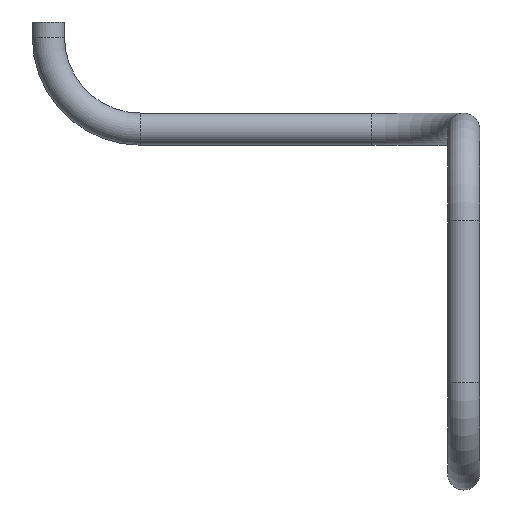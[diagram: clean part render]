
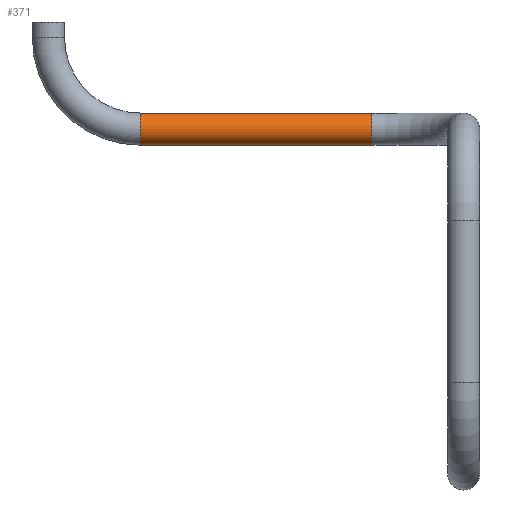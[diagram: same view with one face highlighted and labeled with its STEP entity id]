
A CAD part, left-side view. The second image highlights one B-rep face of the part: STEP entity #371.
In plain terms, the highlighted cylindrical face has radius 0.525 mm (diameter 1.05 mm), a full revolution.
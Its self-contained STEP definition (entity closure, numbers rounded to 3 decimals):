
#305 = TOROIDAL_SURFACE('',#306,3.,0.525);
#306 = AXIS2_PLACEMENT_3D('',#307,#308,#309);
#307 = CARTESIAN_POINT('',(-6.81,-19.99,-9.5));
#308 = DIRECTION('',(-0.,0.,1.));
#309 = DIRECTION('',(0.,-1.,0.));
#322 = VERTEX_POINT('',#323);
#323 = CARTESIAN_POINT('',(-3.81,-19.99,-8.975));
#344 = EDGE_CURVE('',#322,#322,#345,.T.);
#345 = SURFACE_CURVE('',#346,(#351,#358),.PCURVE_S1.);
#346 = CIRCLE('',#347,0.525);
#347 = AXIS2_PLACEMENT_3D('',#348,#349,#350);
#348 = CARTESIAN_POINT('',(-3.81,-19.99,-9.5));
#349 = DIRECTION('',(0.,-1.,0.));
#350 = DIRECTION('',(1.,0.,0.));
#351 = PCURVE('',#305,#352);
#352 = DEFINITIONAL_REPRESENTATION('',(#353),#357);
#353 = LINE('',#354,#355);
#354 = CARTESIAN_POINT('',(1.571,0.));
#355 = VECTOR('',#356,1.);
#356 = DIRECTION('',(0.,1.));
#357 = ( GEOMETRIC_REPRESENTATION_CONTEXT(2) 
PARAMETRIC_REPRESENTATION_CONTEXT() REPRESENTATION_CONTEXT('2D SPACE',''
  ) );
#358 = PCURVE('',#359,#364);
#359 = CYLINDRICAL_SURFACE('',#360,0.525);
#360 = AXIS2_PLACEMENT_3D('',#361,#362,#363);
#361 = CARTESIAN_POINT('',(-3.81,-19.99,-9.5));
#362 = DIRECTION('',(0.,1.,0.));
#363 = DIRECTION('',(0.,-0.,1.));
#364 = DEFINITIONAL_REPRESENTATION('',(#365),#368);
#365 = B_SPLINE_CURVE_WITH_KNOTS('',1,(#366,#367),.UNSPECIFIED.,.F.,.F.,
  (2,2),(1.571,7.854),.PIECEWISE_BEZIER_KNOTS.);
#366 = CARTESIAN_POINT('',(6.283,0.));
#367 = CARTESIAN_POINT('',(0.,0.));
#368 = ( GEOMETRIC_REPRESENTATION_CONTEXT(2) 
PARAMETRIC_REPRESENTATION_CONTEXT() REPRESENTATION_CONTEXT('2D SPACE',''
  ) );
#371 = ADVANCED_FACE('',(#372),#359,.T.);
#372 = FACE_BOUND('',#373,.T.);
#373 = EDGE_LOOP('',(#374,#396,#422,#423));
#374 = ORIENTED_EDGE('',*,*,#375,.T.);
#375 = EDGE_CURVE('',#322,#376,#378,.T.);
#376 = VERTEX_POINT('',#377);
#377 = CARTESIAN_POINT('',(-3.81,-12.428,-8.975));
#378 = SEAM_CURVE('',#379,(#383,#389),.PCURVE_S1.);
#379 = LINE('',#380,#381);
#380 = CARTESIAN_POINT('',(-3.81,-19.99,-8.975));
#381 = VECTOR('',#382,1.);
#382 = DIRECTION('',(0.,1.,0.));
#383 = PCURVE('',#359,#384);
#384 = DEFINITIONAL_REPRESENTATION('',(#385),#388);
#385 = B_SPLINE_CURVE_WITH_KNOTS('',1,(#386,#387),.UNSPECIFIED.,.F.,.F.,
  (2,2),(0.,7.562),.PIECEWISE_BEZIER_KNOTS.);
#386 = CARTESIAN_POINT('',(6.283,0.));
#387 = CARTESIAN_POINT('',(6.283,7.562));
#388 = ( GEOMETRIC_REPRESENTATION_CONTEXT(2) 
PARAMETRIC_REPRESENTATION_CONTEXT() REPRESENTATION_CONTEXT('2D SPACE',''
  ) );
#389 = PCURVE('',#359,#390);
#390 = DEFINITIONAL_REPRESENTATION('',(#391),#395);
#391 = LINE('',#392,#393);
#392 = CARTESIAN_POINT('',(0.,0.));
#393 = VECTOR('',#394,1.);
#394 = DIRECTION('',(0.,1.));
#395 = ( GEOMETRIC_REPRESENTATION_CONTEXT(2) 
PARAMETRIC_REPRESENTATION_CONTEXT() REPRESENTATION_CONTEXT('2D SPACE',''
  ) );
#396 = ORIENTED_EDGE('',*,*,#397,.F.);
#397 = EDGE_CURVE('',#376,#376,#398,.T.);
#398 = SURFACE_CURVE('',#399,(#404,#411),.PCURVE_S1.);
#399 = CIRCLE('',#400,0.525);
#400 = AXIS2_PLACEMENT_3D('',#401,#402,#403);
#401 = CARTESIAN_POINT('',(-3.81,-12.428,-9.5));
#402 = DIRECTION('',(0.,1.,0.));
#403 = DIRECTION('',(0.,-0.,1.));
#404 = PCURVE('',#359,#405);
#405 = DEFINITIONAL_REPRESENTATION('',(#406),#410);
#406 = LINE('',#407,#408);
#407 = CARTESIAN_POINT('',(0.,7.562));
#408 = VECTOR('',#409,1.);
#409 = DIRECTION('',(1.,0.));
#410 = ( GEOMETRIC_REPRESENTATION_CONTEXT(2) 
PARAMETRIC_REPRESENTATION_CONTEXT() REPRESENTATION_CONTEXT('2D SPACE',''
  ) );
#411 = PCURVE('',#412,#417);
#412 = TOROIDAL_SURFACE('',#413,3.,0.525);
#413 = AXIS2_PLACEMENT_3D('',#414,#415,#416);
#414 = CARTESIAN_POINT('',(-3.81,-12.428,-6.5));
#415 = DIRECTION('',(1.,-0.,0.));
#416 = DIRECTION('',(0.,0.,-1.));
#417 = DEFINITIONAL_REPRESENTATION('',(#418),#421);
#418 = B_SPLINE_CURVE_WITH_KNOTS('',1,(#419,#420),.UNSPECIFIED.,.F.,.F.,
  (2,2),(0.,6.283),.PIECEWISE_BEZIER_KNOTS.);
#419 = CARTESIAN_POINT('',(0.,9.425));
#420 = CARTESIAN_POINT('',(0.,3.142));
#421 = ( GEOMETRIC_REPRESENTATION_CONTEXT(2) 
PARAMETRIC_REPRESENTATION_CONTEXT() REPRESENTATION_CONTEXT('2D SPACE',''
  ) );
#422 = ORIENTED_EDGE('',*,*,#375,.F.);
#423 = ORIENTED_EDGE('',*,*,#344,.F.);
